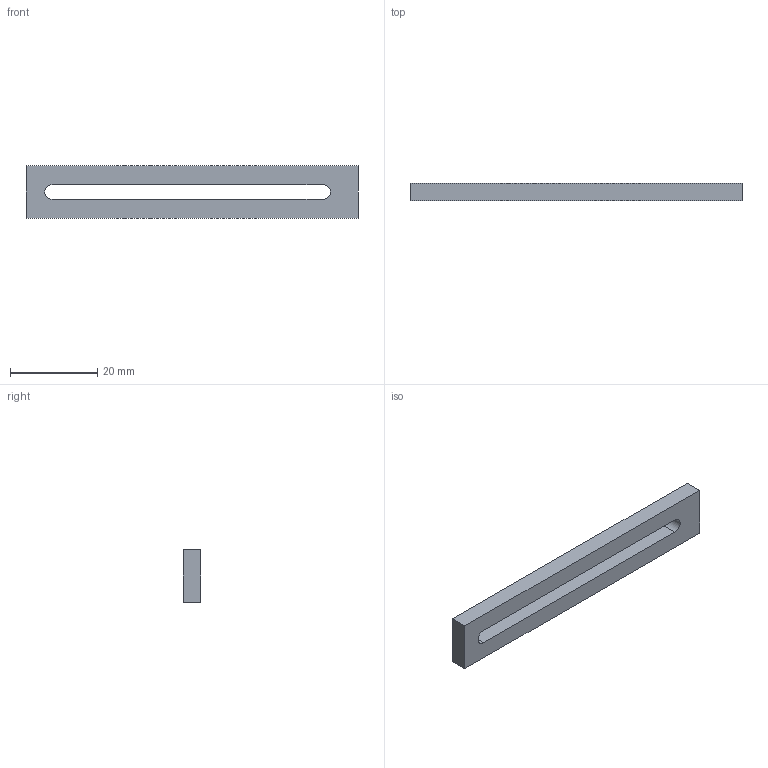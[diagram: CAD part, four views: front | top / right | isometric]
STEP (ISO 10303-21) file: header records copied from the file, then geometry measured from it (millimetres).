
FILE_DESCRIPTION(('Open CASCADE Model'),'2;1');
FILE_NAME('Open CASCADE Shape Model','2026-11-08T04:10:21',('Author'),( 'Open CASCADE'),'Open CASCADE STEP processor 7.8','Open CASCADE 7.8' ,'Unknown');
FILE_SCHEMA(('AUTOMOTIVE_DESIGN { 1 0 10303 214 1 1 1 1 }'));
Length unit declared in the file: millimetre
Products named in the file (1): Open CASCADE STEP translator 7.8 2
Bounding box: 76 x 4 x 12 mm (x, y, z)
Volume: 2768.5 mm3; surface area: 2627 mm2
Topology: 1 solids, 1 shells, 10 faces, 24 edges, 16 vertices
Faces by surface type: plane 8, cylinder 2
Entity records: 608 total; most frequent: CARTESIAN_POINT 109, DIRECTION 88, LINE 54, VECTOR 54, ORIENTED_EDGE 48, PCURVE 48, DEFINITIONAL_REPRESENTATION 48, EDGE_CURVE 24
